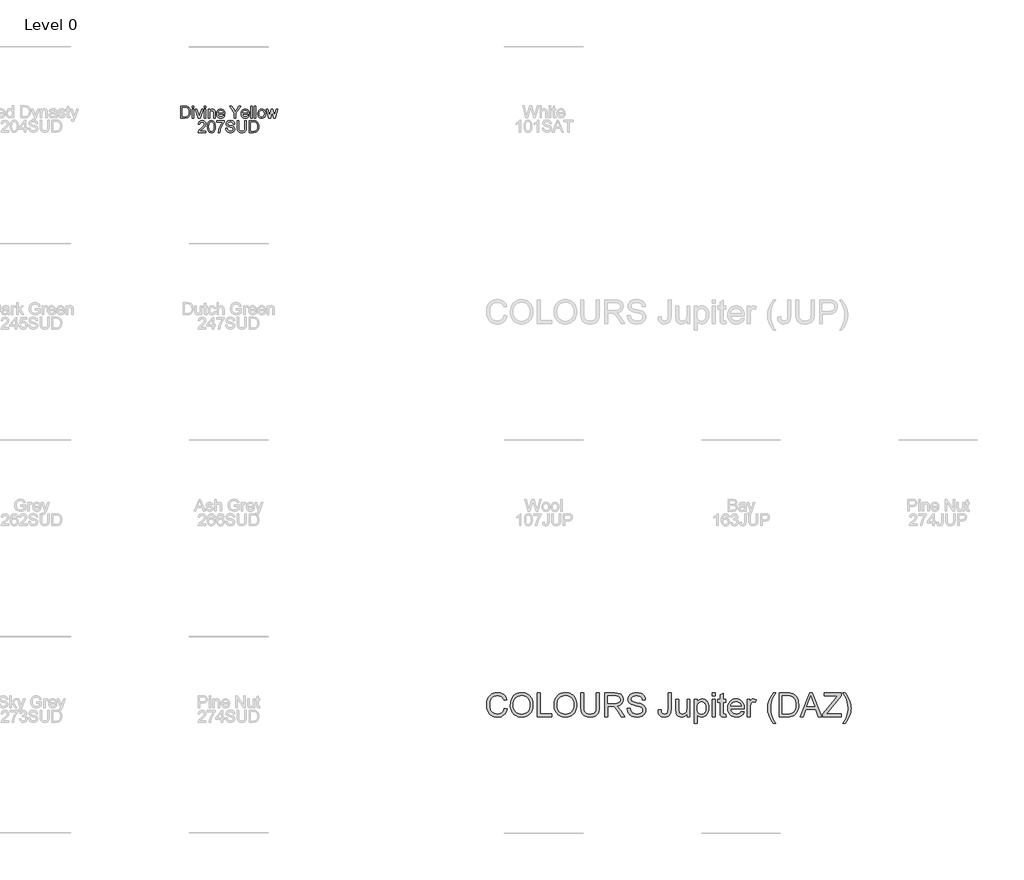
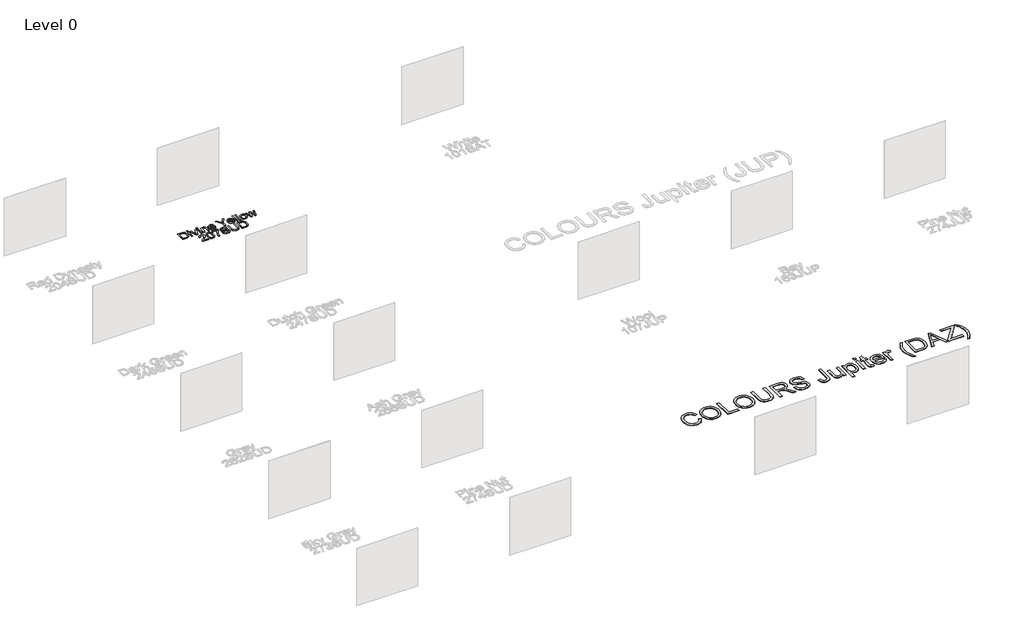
# One storey, part 24 of 37: 2 proxies.
"""IFC4 building model written with IfcOpenShell, lengths in millimetres."""

from ifc_helpers import new_model, si_unit, origin, origin_with_axes, place, context, project, spatial, polyline, outline, extrude, element, save

model = new_model("IFC4")

# Units and contexts
model_context = context("Model", 3, world=origin())
ifc_project = project(units=[si_unit("LENGTHUNIT", "METRE", prefix="MILLI")], contexts=[model_context])

# Site, building, storey
site = spatial("IfcSite", under=ifc_project)
building = spatial("IfcBuilding", under=site)
storey = spatial("IfcBuildingStorey", under=building, Name="Level 0", Elevation=0.0)

# Proxies
placement = place(None, origin())
element("IfcBuildingElementProxy", 1, Name="300mm Arial", ObjectType="300mm Arial", at=placement, inside=storey, context=model_context, shape_type="SweptSolid", body=[
    extrude(outline(polyline([(9332.0939981, -16982.860494), (9332.0939981, -16681.4915635), (9436.0574499, -16681.4915635), (9489.8417976, -16685.8325711), (9513.8644919, -16694.2018865), (9534.1347898, -16707.390456), (9554.9753048, -16730.3462925), (9569.8193433, -16758.8939353), (9578.7036935, -16792.4815615), (9581.6651436, -16830.557348), (9579.6601867, -16862.9033724), (9573.6453161, -16891.3682418), (9564.4850544, -16915.6024682), (9553.0439244, -16935.2565638), (9539.8737489, -16950.771987), (9525.5263511, -16962.590196), (9509.0544348, -16971.3549846), (9489.5107038, -16977.710146), (9441.060645, -16982.860494), (9332.0939981, -16982.860494)]), holes=[polyline([(9369.7651144, -16945.1893777), (9436.4253319, -16945.1893777), (9463.9980874, -16943.8282143), (9484.9121788, -16939.7447241), (9500.6943164, -16933.1780305), (9512.8712105, -16924.3672567), (9525.9586125, -16908.0608873), (9535.7902588, -16886.9536578), (9541.9430852, -16860.9535978), (9543.9940273, -16829.9687368), (9539.9749165, -16788.9131061), (9527.9175841, -16758.5996297), (9510.1028985, -16737.7775088), (9488.811728, -16725.1959446), (9467.1434785, -16720.670996), (9435.3952623, -16719.1626798), (9369.7651144, -16719.1626798), (9369.7651144, -16945.1893777)])]), origin_with_axes(), (0.0, 0.0, 1.0), 10.0),
    extrude(outline(polyline([(9628.754039, -16719.1626798), (9628.754039, -16681.4915635), (9666.4251553, -16681.4915635), (9666.4251553, -16719.1626798), (9628.754039, -16719.1626798)])), origin_with_axes(), (0.0, 0.0, 1.0), 10.0),
    extrude(outline(polyline([(9628.754039, -16982.860494), (9628.754039, -16761.5426857), (9666.4251553, -16761.5426857), (9666.4251553, -16982.860494), (9628.754039, -16982.860494)])), origin_with_axes(), (0.0, 0.0, 1.0), 10.0),
    extrude(outline(polyline([(9777.2312122, -16982.860494), (9699.387382, -16761.5426857), (9739.2657903, -16761.5426857), (9786.4282621, -16894.1273567), (9800.6285071, -16938.7146546), (9814.5344465, -16896.6289543), (9861.9912239, -16761.5426857), (9901.8696322, -16761.5426857), (9824.9822952, -16982.860494), (9777.2312122, -16982.860494)])), origin_with_axes(), (0.0, 0.0, 1.0), 10.0),
    extrude(outline(polyline([(9934.8318589, -16719.1626798), (9934.8318589, -16681.4915635), (9972.5029753, -16681.4915635), (9972.5029753, -16719.1626798), (9934.8318589, -16719.1626798)])), origin_with_axes(), (0.0, 0.0, 1.0), 10.0),
    extrude(outline(polyline([(9934.8318589, -16982.860494), (9934.8318589, -16761.5426857), (9972.5029753, -16761.5426857), (9972.5029753, -16982.860494), (9934.8318589, -16982.860494)])), origin_with_axes(), (0.0, 0.0, 1.0), 10.0),
    extrude(outline(polyline([(10029.0096497, -16982.860494), (10029.0096497, -16761.5426857), (10066.680766, -16761.5426857), (10066.680766, -16792.4447733), (10079.768168, -16776.8649708), (10095.4859262, -16765.7365404), (10113.8340408, -16759.0594822), (10134.8125115, -16756.8337961), (10153.3813552, -16758.6272209), (10170.3867005, -16764.0074951), (10184.5685514, -16772.303234), (10194.6669121, -16782.8430532), (10205.9608894, -16810.5445674), (10207.9474522, -16846.964885), (10207.9474522, -16982.860494), (10170.2763359, -16982.860494), (10170.2763359, -16852.0416565), (10165.9353283, -16818.7115477), (10159.9296547, -16808.7879309), (10150.5946491, -16801.0900002), (10138.6292872, -16796.1511844), (10124.7325449, -16794.5049125), (10102.6688222, -16798.2021265), (10083.8608552, -16809.2937687), (10076.3445662, -16818.3482643), (10070.9757883, -16830.7228949), (10066.680766, -16865.4325611), (10066.680766, -16982.860494), (10029.0096497, -16982.860494)])), origin_with_axes(), (0.0, 0.0, 1.0), 10.0),
    extrude(outline(polyline([(10414.6971335, -16916.9360404), (10451.6324858, -16921.64493), (10438.3243546, -16949.4752029), (10417.0883664, -16970.2789297), (10388.4027679, -16983.2467701), (10352.7458055, -16987.5693835), (10329.3715032, -16985.7046817), (10308.5447837, -16980.1105761), (10290.2656471, -16970.7870668), (10274.5340933, -16957.7341537), (10261.8835512, -16941.3151204), (10252.8474497, -16921.8932503), (10247.4257888, -16899.4685435), (10245.6185685, -16874.0409998), (10247.4441829, -16847.7512327), (10252.9210261, -16824.5792656), (10262.0490981, -16804.5250983), (10274.8283989, -16787.5887309), (10290.518566, -16774.133447), (10308.3792369, -16764.5225298), (10328.4104115, -16758.7559796), (10350.6120899, -16756.8337961), (10372.0986977, -16758.751381), (10391.5297648, -16764.5041357), (10408.9052913, -16774.0920602), (10424.2252771, -16787.5151545), (10436.7309657, -16804.4147337), (10445.6636004, -16824.4321128), (10451.0231812, -16847.5672917), (10452.8097082, -16873.8202706), (10452.588979, -16883.9738137), (10283.2896848, -16883.9738137), (10289.8103931, -16912.1719686), (10304.9579343, -16932.902119), (10326.8193219, -16945.6492302), (10353.4815695, -16949.8982672), (10373.5311382, -16947.9300985), (10390.4169218, -16942.0255925), (10404.1389202, -16931.8168672), (10414.6971335, -16916.9360404)]), holes=[polyline([(10283.2896848, -16846.3026974), (10415.1385919, -16846.3026974), (10410.0434262, -16826.4002814), (10400.05543, -16812.1632482), (10378.0928749, -16798.9194964), (10350.4649371, -16794.5049125), (10325.0718824, -16798.0273826), (10304.0750175, -16808.5947929), (10289.4792993, -16825.0667092), (10283.2896848, -16846.3026974)])]), origin_with_axes(), (0.0, 0.0, 1.0), 10.0),
    extrude(outline(polyline([(10697.6719641, -16982.860494), (10697.6719641, -16855.2054417), (10579.9497257, -16681.4915635), (10624.3898707, -16681.4915635), (10687.2241155, -16774.2714027), (10719.3770019, -16821.5810273), (10751.6034646, -16770.8868884), (10808.6251739, -16681.4915635), (10853.0653189, -16681.4915635), (10735.3430805, -16855.2054417), (10735.3430805, -16982.860494), (10697.6719641, -16982.860494)])), origin_with_axes(), (0.0, 0.0, 1.0), 10.0),
    extrude(outline(polyline([(11036.2705525, -16916.9360404), (11073.2059048, -16921.64493), (11059.8977736, -16949.4752029), (11038.6617855, -16970.2789297), (11009.9761869, -16983.2467701), (10974.3192245, -16987.5693835), (10950.9449223, -16985.7046817), (10930.1182028, -16980.1105761), (10911.8390662, -16970.7870668), (10896.1075123, -16957.7341537), (10883.4569702, -16941.3151204), (10874.4208687, -16921.8932503), (10868.9992078, -16899.4685435), (10867.1919875, -16874.0409998), (10869.0176019, -16847.7512327), (10874.4944451, -16824.5792656), (10883.6225171, -16804.5250983), (10896.4018179, -16787.5887309), (10912.091985, -16774.133447), (10929.9526559, -16764.5225298), (10949.9838305, -16758.7559796), (10972.1855089, -16756.8337961), (10993.6721167, -16758.751381), (11013.1031839, -16764.5041357), (11030.4787103, -16774.0920602), (11045.7986962, -16787.5151545), (11058.3043848, -16804.4147337), (11067.2370195, -16824.4321128), (11072.5966003, -16847.5672917), (11074.3831272, -16873.8202706), (11074.162398, -16883.9738137), (10904.8631038, -16883.9738137), (10911.3838122, -16912.1719686), (10926.5313533, -16932.902119), (10948.3927409, -16945.6492302), (10975.0549885, -16949.8982672), (10995.1045572, -16947.9300985), (11011.9903408, -16942.0255925), (11025.7123392, -16931.8168672), (11036.2705525, -16916.9360404)]), holes=[polyline([(10904.8631038, -16846.3026974), (11036.7120109, -16846.3026974), (11031.6168453, -16826.4002814), (11021.6288491, -16812.1632482), (10999.666294, -16798.9194964), (10972.0383562, -16794.5049125), (10946.6453014, -16798.0273826), (10925.6484366, -16808.5947929), (10911.0527184, -16825.0667092), (10904.8631038, -16846.3026974)])]), origin_with_axes(), (0.0, 0.0, 1.0), 10.0),
    extrude(outline(polyline([(11112.0542435, -16982.860494), (11112.0542435, -16681.4915635), (11149.7253598, -16681.4915635), (11149.7253598, -16982.860494), (11112.0542435, -16982.860494)])), origin_with_axes(), (0.0, 0.0, 1.0), 10.0),
    extrude(outline(polyline([(11206.2320343, -16982.860494), (11206.2320343, -16681.4915635), (11243.9031506, -16681.4915635), (11243.9031506, -16982.860494), (11206.2320343, -16982.860494)])), origin_with_axes(), (0.0, 0.0, 1.0), 10.0),
    extrude(outline(polyline([(11290.992046, -16872.2015898), (11293.0291925, -16843.5389839), (11299.1406322, -16818.8403064), (11309.3263649, -16798.1055575), (11323.5863907, -16781.334737), (11337.9429856, -16770.6155754), (11353.7895025, -16762.9590314), (11371.1259416, -16758.3651049), (11389.9523027, -16756.8337961), (11410.7353361, -16758.698498), (11429.5272083, -16764.2926036), (11446.3279192, -16773.6161129), (11461.1374687, -16786.669026), (11473.2246915, -16803.0098843), (11481.8584221, -16822.1972296), (11487.0386605, -16844.2310619), (11488.7654066, -16869.1113811), (11485.711986, -16907.1687735), (11476.5517243, -16936.1394806), (11461.551336, -16957.8353213), (11440.9775354, -16974.0681143), (11416.5409739, -16984.1940662), (11389.9523027, -16987.5693835), (11368.8657666, -16985.7115794), (11349.8991504, -16980.1381672), (11333.0524543, -16970.8491468), (11318.3256782, -16957.8445183), (11306.3672141, -16941.3450108), (11297.825454, -16921.5713536), (11292.700398, -16898.5235466), (11290.992046, -16872.2015898)]), holes=[polyline([(11328.6631623, -16872.1280134), (11333.0225639, -16906.2214773), (11346.1007688, -16930.5108861), (11365.7824556, -16945.0514219), (11389.9523027, -16949.8982672), (11414.0117852, -16945.0238308), (11433.6566837, -16930.4005215), (11446.7348886, -16905.789216), (11451.0942903, -16870.950791), (11446.7072975, -16837.8506085), (11433.5463191, -16813.8922936), (11413.8738294, -16799.3517577), (11389.9523027, -16794.5049125), (11365.7824556, -16799.3333636), (11346.1007688, -16813.8187172), (11333.0225639, -16838.0529436), (11328.6631623, -16872.1280134)])]), origin_with_axes(), (0.0, 0.0, 1.0), 10.0),
    extrude(outline(polyline([(11567.8600355, -16982.860494), (11500.5376304, -16761.5426857), (11539.6802747, -16761.5426857), (11577.8664258, -16890.669266), (11589.2707677, -16936.8016682), (11598.6149703, -16892.3615232), (11629.0020231, -16761.5426857), (11673.8836265, -16761.5426857), (11704.1235266, -16891.9936412), (11712.4376596, -16932.2399314), (11724.3570363, -16889.7863492), (11762.6167638, -16761.5426857), (11801.9065609, -16761.5426857), (11734.069121, -16982.860494), (11688.52533, -16982.860494), (11659.6098051, -16853.0717261), (11651.2220956, -16812.6047066), (11613.9188613, -16982.860494), (11567.8600355, -16982.860494)])), origin_with_axes(), (0.0, 0.0, 1.0), 10.0),
    extrude(outline(polyline([(9974.85742, -17311.1138312), (9974.85742, -17348.7849475), (9777.0840594, -17348.7849475), (9781.1307614, -17322.8124787), (9790.4197817, -17302.5145896), (9804.0130215, -17282.8237058), (9823.6763141, -17262.213117), (9851.1754932, -17239.156113), (9891.8264537, -17203.0484951), (9916.21703, -17176.3954446), (9928.4123181, -17154.7639833), (9932.4774142, -17133.7211331), (9928.6422444, -17114.8579838), (9917.136735, -17099.1770138), (9899.4508081, -17088.6096035), (9877.0743857, -17085.0871334), (9853.5759233, -17088.52683), (9835.3197793, -17098.84592), (9823.5383584, -17115.2350629), (9819.4640653, -17136.8849183), (9781.792949, -17132.1760288), (9790.9256195, -17095.7373171), (9799.4719781, -17081.2013798), (9810.6716856, -17069.1210548), (9824.2672246, -17059.6251008), (9840.0010776, -17052.8422765), (9877.8837261, -17047.4160171), (9898.0735498, -17048.9243332), (9916.042286, -17053.4492818), (9931.7899347, -17060.9908627), (9945.3164958, -17071.549076), (9956.180511, -17084.3421723), (9963.9405218, -17098.5884026), (9968.5965283, -17114.2877667), (9970.1485305, -17131.4402648), (9968.4746674, -17149.4572855), (9963.4530782, -17167.1616065), (9954.5411368, -17185.1694302), (9941.1962175, -17204.0969588), (9919.9234411, -17226.6941104), (9887.2279288, -17255.7108027), (9843.8914297, -17291.9471793), (9826.8952816, -17311.1138312), (9974.85742, -17311.1138312)])), origin_with_axes(), (0.0, 0.0, 1.0), 10.0),
    extrude(outline(polyline([(10012.5285363, -17200.5285035), (10015.2968483, -17152.2899768), (10023.6017844, -17113.8187172), (10037.360571, -17084.5261133), (10056.4904348, -17063.8235541), (10081.1293314, -17051.5179013), (10111.4152166, -17047.4160171), (10134.6285705, -17049.8440382), (10155.4139033, -17057.1281017), (10172.7963275, -17068.983099), (10185.8009561, -17085.1239216), (10195.6234053, -17105.4126136), (10203.4592918, -17129.7112194), (10208.5912457, -17160.5673217), (10210.3018969, -17200.5285035), (10207.5611761, -17248.4911186), (10199.3390135, -17286.8704077), (10185.6630003, -17316.1906027), (10166.5607277, -17336.9759355), (10141.8666488, -17349.3643617), (10111.4152166, -17353.4938371), (10090.6666721, -17351.7004123), (10072.2725723, -17346.3201381), (10056.2329174, -17337.3530145), (10042.5477071, -17324.7990414), (10029.4143199, -17302.1053209), (10020.033329, -17273.828991), (10014.4047345, -17239.9700519), (10012.5285363, -17200.5285035)]), holes=[polyline([(10050.1996526, -17200.4549271), (10054.6142366, -17259.7115194), (10060.1324665, -17279.9795181), (10067.8579884, -17294.0073184), (10087.5764633, -17310.3688702), (10111.4152166, -17315.8227207), (10135.2539699, -17310.3504761), (10154.9724449, -17293.933742), (10162.6979668, -17279.8829491), (10168.2161967, -17259.6195489), (10172.6307806, -17200.4549271), (10168.3633495, -17142.5319069), (10163.0290606, -17122.3305869), (10155.5610561, -17107.9693935), (10135.8793693, -17090.8076984), (10110.9737582, -17085.0871334), (10087.3925223, -17090.1271167), (10068.4465996, -17105.2470667), (10060.4635603, -17120.8820515), (10054.7613894, -17141.9616898), (10050.1996526, -17200.4549271)])]), origin_with_axes(), (0.0, 0.0, 1.0), 10.0),
    extrude(outline(polyline([(10243.2641237, -17089.7960229), (10243.2641237, -17052.1249066), (10441.0374843, -17052.1249066), (10441.0374843, -17082.5855358), (10412.8485264, -17118.2608923), (10384.93548, -17163.6299393), (10360.3149775, -17214.5540045), (10342.0036512, -17266.8944154), (10333.0273305, -17306.0554538), (10328.0241354, -17348.7849475), (10290.3530191, -17348.7849475), (10294.4273122, -17309.9550029), (10305.3258163, -17263.8042066), (10322.7542258, -17214.8850983), (10346.4182352, -17167.7502177), (10374.046173, -17125.1402856), (10403.366368, -17089.7960229), (10243.2641237, -17089.7960229)])), origin_with_axes(), (0.0, 0.0, 1.0), 10.0),
    extrude(outline(polyline([(10473.9997111, -17245.1893777), (10511.6708274, -17245.1893777), (10515.9934408, -17266.0942721), (10523.8109332, -17282.8972822), (10536.0062214, -17296.2330045), (10553.462222, -17306.7360355), (10574.7993778, -17313.5510494), (10598.638131, -17315.8227207), (10619.6257989, -17314.1028724), (10638.0015045, -17308.9433274), (10652.8915283, -17300.7763471), (10663.4221504, -17290.0341929), (10669.6853414, -17277.700949), (10671.7730717, -17264.7606998), (10670.2095732, -17252.1515444), (10665.5190778, -17241.2530403), (10655.9909341, -17231.9548229), (10639.9144909, -17224.1465276), (10585.0632854, -17209.7623415), (10549.0568351, -17200.2433949), (10526.0182252, -17191.1843008), (10507.2654405, -17178.510766), (10493.9757034, -17163.1516928), (10486.0570435, -17145.4381747), (10483.4174902, -17125.7013056), (10486.6824429, -17103.637583), (10496.477301, -17083.0637824), (10512.5445471, -17065.6261758), (10534.6266639, -17052.9710352), (10561.1325616, -17045.2731044), (10590.4711508, -17042.7071275), (10622.2561551, -17045.3926661), (10650.068034, -17053.4492818), (10672.9135059, -17066.7114277), (10689.7992895, -17085.013557), (10700.4862614, -17107.2152354), (10704.7352985, -17132.1760288), (10667.0641821, -17132.1760288), (10660.1480006, -17109.6984389), (10645.7270264, -17093.4748429), (10623.1942542, -17083.6523936), (10591.9426787, -17080.3782438), (10559.9553393, -17083.6156054), (10538.0111782, -17093.3276901), (10525.3192494, -17107.6199056), (10521.0886065, -17124.5976597), (10524.0868447, -17139.0738162), (10533.0815595, -17150.7172813), (10554.3451388, -17161.1283418), (10594.5914291, -17171.7601314), (10636.1253064, -17181.8584922), (10661.2516466, -17190.669266), (10682.7267581, -17204.3360821), (10697.7087523, -17221.2034716), (10706.5103291, -17241.0874934), (10709.444188, -17263.8042066), (10706.0688707, -17287.0267576), (10695.9429188, -17308.869751), (10679.4801995, -17327.668521), (10657.0945801, -17341.7584014), (10630.1748151, -17350.5599781), (10600.109659, -17353.4938371), (10563.2018979, -17350.3300519), (10532.8240421, -17340.8386964), (10508.6266039, -17324.9829824), (10490.2600953, -17302.7261217), (10478.4694773, -17275.6132187), (10473.9997111, -17245.1893777)])), origin_with_axes(), (0.0, 0.0, 1.0), 10.0),
    extrude(outline(polyline([(10963.7242231, -17047.4160171), (11001.3953394, -17047.4160171), (11001.3953394, -17221.277048), (10998.8385595, -17261.9923878), (10991.1682199, -17293.3451308), (10976.8392162, -17317.533372), (10954.306444, -17336.7552063), (10923.514721, -17349.3091794), (10884.4088649, -17353.4938371), (10846.1583345, -17349.8518053), (10815.5781436, -17338.92571), (10792.6590953, -17321.0926303), (10777.3919925, -17296.7296452), (10768.811145, -17264.052527), (10765.9508625, -17221.277048), (10765.9508625, -17047.4160171), (10803.6219788, -17047.4160171), (10803.6219788, -17219.9526728), (10805.4797828, -17253.8070134), (10811.0531951, -17277.3790523), (10821.1515558, -17293.7038158), (10836.5842055, -17305.8163305), (10856.7073507, -17313.3211232), (10880.8771977, -17315.8227207), (10919.1921075, -17310.8747079), (10933.5349068, -17304.6896919), (10944.6679357, -17296.0306694), (10953.0050614, -17283.8537754), (10958.9601512, -17267.1151446), (10963.7242231, -17219.9526728), (10963.7242231, -17047.4160171)])), origin_with_axes(), (0.0, 0.0, 1.0), 10.0),
    extrude(outline(polyline([(11067.3197929, -17348.7849475), (11067.3197929, -17047.4160171), (11171.2832447, -17047.4160171), (11225.0675924, -17051.7570246), (11249.0902867, -17060.12634), (11269.3605847, -17073.3149095), (11290.2010997, -17096.270746), (11305.0451382, -17124.8183889), (11313.9294884, -17158.406015), (11316.8909384, -17196.4818015), (11314.8859816, -17228.8278259), (11308.8711109, -17257.2926953), (11299.7108493, -17281.5269217), (11288.2697192, -17301.1810173), (11275.0995438, -17316.6964405), (11260.752146, -17328.5146496), (11244.2802296, -17337.2794381), (11224.7364986, -17343.6345996), (11176.2864399, -17348.7849475), (11067.3197929, -17348.7849475)]), holes=[polyline([(11104.9909092, -17311.1138312), (11171.6511267, -17311.1138312), (11199.2238823, -17309.7526678), (11220.1379737, -17305.6691777), (11235.9201113, -17299.1024841), (11248.0970053, -17290.2917103), (11261.1844073, -17273.9853408), (11271.0160536, -17252.8781114), (11277.16888, -17226.8780514), (11279.2198221, -17195.8931903), (11275.2007113, -17154.8375597), (11263.1433789, -17124.5240833), (11245.3286933, -17103.7019623), (11224.0375228, -17091.1203981), (11202.3692733, -17086.5954496), (11170.6210571, -17085.0871334), (11104.9909092, -17085.0871334), (11104.9909092, -17311.1138312)])]), origin_with_axes(), (0.0, 0.0, 1.0), 10.0),
])
element("IfcBuildingElementProxy", 2, Name="600mm Arial", ObjectType="600mm Arial", at=placement, inside=storey, context=model_context, shape_type="SweptSolid", body=[
    extrude(outline(polyline([(17546.3368732, -31966.6175733), (17621.6791058, -31986.0417427), (17606.770688, -32032.8961133), (17586.9142573, -32073.8367808), (17562.1098137, -32108.8637453), (17532.3573574, -32137.9770067), (17498.3282728, -32160.8638653), (17460.6939447, -32177.2116215), (17419.4543731, -32187.0202752), (17374.6095579, -32190.2898264), (17328.6656952, -32187.81582), (17287.2191899, -32180.3938007), (17250.270042, -32168.0237686), (17217.8182515, -32150.7057237), (17189.4177615, -32128.6971834), (17164.622515, -32102.255665), (17143.4325121, -32071.3811685), (17125.8477527, -32036.073694), (17112.0383823, -31997.8599518), (17102.1745463, -31958.266652), (17096.2562447, -31917.2937948), (17094.2834775, -31874.9413801), (17096.5137621, -31829.4987567), (17103.2046159, -31787.0543715), (17114.3560389, -31747.6082246), (17129.9680311, -31711.1603159), (17149.6911045, -31678.3130522), (17173.1757714, -31649.6688404), (17200.4220317, -31625.2276803), (17231.4298853, -31604.9895721), (17265.1462702, -31589.1200625), (17300.518124, -31577.7846985), (17337.5454468, -31570.9834801), (17376.2282386, -31568.7164074), (17419.3210158, -31571.6502663), (17458.8361406, -31580.451843), (17494.7736131, -31595.1211376), (17527.1334331, -31615.6581499), (17555.3821718, -31641.5202542), (17578.9864003, -31672.1648244), (17597.9461186, -31707.5918605), (17612.2613267, -31747.8013626), (17536.9190941, -31765.754004), (17525.0548998, -31736.1257078), (17510.7994725, -31710.810828), (17494.1528122, -31689.8093646), (17475.1149189, -31673.1213176), (17453.5754281, -31660.4063961), (17429.4239751, -31651.3243094), (17402.66056, -31645.8750573), (17373.2851827, -31644.05864), (17339.4860244, -31646.0727939), (17308.5747397, -31652.1152557), (17280.5513287, -31662.1860253), (17255.4157914, -31676.2851027), (17233.485426, -31693.7778916), (17215.0775306, -31714.0297954), (17200.1921054, -31737.0408142), (17188.8291503, -31762.810948), (17174.4265702, -31817.9564591), (17169.6257101, -31874.7942273), (17175.309487, -31944.3975008), (17182.414208, -31975.6674704), (17192.3608174, -32004.5829952), (17205.3102637, -32030.5692597), (17221.4234951, -32053.0514481), (17240.7005116, -32072.0295605), (17263.1413133, -32087.503597), (17287.6560498, -32099.5103456), (17313.1548706, -32108.0865946), (17339.6377757, -32113.232344), (17367.1047652, -32114.9475938), (17399.8600583, -32112.6115431), (17429.9941922, -32105.6033911), (17457.5071669, -32093.9231378), (17482.3989824, -32077.5707831), (17504.0810275, -32056.6199035), (17521.964691, -32031.1440753), (17536.0499729, -32001.1432986), (17546.3368732, -31966.6175733)])), origin_with_axes(), (0.0, 0.0, 1.0), 10.0),
    extrude(outline(polyline([(17697.0213384, -31887.449368), (17702.0429277, -31816.7516456), (17717.1076954, -31754.1657211), (17742.2156415, -31699.6915947), (17758.5358065, -31675.4964557), (17777.3667662, -31653.3292662), (17820.4549449, -31616.3111405), (17869.3740532, -31589.8696221), (17924.1240911, -31574.004711), (17984.7050587, -31568.7164074), (18025.2548516, -31571.1996108), (18063.7628994, -31578.6492212), (18100.2292022, -31591.0652386), (18134.6537599, -31608.4476628), (18166.0708823, -31630.2722622), (18193.5148791, -31656.0148048), (18216.9857504, -31685.6752907), (18236.4834962, -31719.2537198), (18251.8057813, -31755.986737), (18262.7502706, -31795.1109872), (18269.3169642, -31836.6264703), (18271.5058621, -31880.5331865), (18269.2020011, -31925.0193167), (18262.2904181, -31967.0958199), (18250.7711131, -32006.7626961), (18234.6440862, -32044.0199451), (18214.2910148, -32077.8834828), (18190.0935766, -32107.3692247), (18162.0517715, -32132.4771709), (18130.1655995, -32153.2073213), (18095.6904581, -32169.4309173), (18059.8817444, -32181.0192001), (18022.7394584, -32187.9721698), (17984.2636003, -32190.2898264), (17943.0056345, -32187.728448), (17903.9917489, -32180.0443128), (17867.2219435, -32167.2374209), (17832.6962182, -32149.3077721), (17801.3158841, -32126.9497439), (17773.9822518, -32100.8577134), (17750.6953215, -32071.0316806), (17731.4550932, -32037.4716456), (17716.3903255, -32001.5249762), (17705.6297771, -31964.5390401), (17699.1734481, -31926.5138373), (17697.0213384, -31887.449368)]), holes=[polyline([(17772.363571, -31888.185132), (17776.129763, -31938.1343099), (17787.4283387, -31982.4732873), (17806.2592984, -32021.2020644), (17832.6226418, -32054.320641), (17864.6697622, -32080.8449328), (17900.5520523, -32099.7908556), (17940.2695122, -32111.1584092), (17983.8221419, -32114.9475938), (18028.1197326, -32111.121621), (18068.3062421, -32099.6437028), (18104.3816702, -32080.513839), (18136.3460171, -32053.7320298), (18162.5162225, -32019.9144774), (18181.2092264, -31979.6773842), (18192.4250287, -31933.0207501), (18196.1636295, -31879.9445753), (18194.5633428, -31845.4648353), (18189.7624828, -31813.2475695), (18181.7610494, -31783.2927781), (18170.5590426, -31755.6004609), (18156.2806227, -31730.5339015), (18139.0499497, -31708.4563832), (18118.8670238, -31689.3679062), (18095.7318448, -31673.2684704), (18070.3617827, -31660.4891696), (18043.4742074, -31651.3610976), (18015.0691188, -31645.8842544), (17985.146517, -31644.05864), (17943.1068021, -31647.5765115), (17904.1021135, -31658.1301263), (17868.1324514, -31675.7194842), (17835.1978158, -31700.3445852), (17807.7078337, -31733.1918489), (17788.0721322, -31775.4476945), (17776.2907113, -31827.1121222), (17772.363571, -31888.185132)])]), origin_with_axes(), (0.0, 0.0, 1.0), 10.0),
    extrude(outline(polyline([(18375.1014319, -32180.8720473), (18375.1014319, -31578.1341864), (18450.4436645, -31578.1341864), (18450.4436645, -32105.5298147), (18751.812595, -32105.5298147), (18751.812595, -32180.8720473), (18375.1014319, -32180.8720473)])), origin_with_axes(), (0.0, 0.0, 1.0), 10.0),
    extrude(outline(polyline([(18808.3192695, -31887.449368), (18813.3408587, -31816.7516456), (18828.4056264, -31754.1657211), (18853.5135726, -31699.6915947), (18869.8337376, -31675.4964557), (18888.6646972, -31653.3292662), (18931.7528759, -31616.3111405), (18980.6719842, -31589.8696221), (19035.4220221, -31574.004711), (19096.0029897, -31568.7164074), (19136.5527826, -31571.1996108), (19175.0608304, -31578.6492212), (19211.5271332, -31591.0652386), (19245.9516909, -31608.4476628), (19277.3688133, -31630.2722622), (19304.8128101, -31656.0148048), (19328.2836814, -31685.6752907), (19347.7814272, -31719.2537198), (19363.1037123, -31755.986737), (19374.0482016, -31795.1109872), (19380.6148953, -31836.6264703), (19382.8037931, -31880.5331865), (19380.4999321, -31925.0193167), (19373.5883491, -31967.0958199), (19362.0690442, -32006.7626961), (19345.9420172, -32044.0199451), (19325.5889458, -32077.8834828), (19301.3915076, -32107.3692247), (19273.3497025, -32132.4771709), (19241.4635306, -32153.2073213), (19206.9883891, -32169.4309173), (19171.1796754, -32181.0192001), (19134.0373895, -32187.9721698), (19095.5615313, -32190.2898264), (19054.3035655, -32187.728448), (19015.2896799, -32180.0443128), (18978.5198745, -32167.2374209), (18943.9941493, -32149.3077721), (18912.6138151, -32126.9497439), (18885.2801828, -32100.8577134), (18861.9932526, -32071.0316806), (18842.7530242, -32037.4716456), (18827.6882565, -32001.5249762), (18816.9277081, -31964.5390401), (18810.4713791, -31926.5138373), (18808.3192695, -31887.449368)]), holes=[polyline([(18883.6615021, -31888.185132), (18887.427694, -31938.1343099), (18898.7262698, -31982.4732873), (18917.5572294, -32021.2020644), (18943.9205729, -32054.320641), (18975.9676932, -32080.8449328), (19011.8499833, -32099.7908556), (19051.5674432, -32111.1584092), (19095.1200729, -32114.9475938), (19139.4176636, -32111.121621), (19179.6041731, -32099.6437028), (19215.6796012, -32080.513839), (19247.6439481, -32053.7320298), (19273.8141535, -32019.9144774), (19292.5071574, -31979.6773842), (19303.7229597, -31933.0207501), (19307.4615605, -31879.9445753), (19305.8612738, -31845.4648353), (19301.0604138, -31813.2475695), (19293.0589804, -31783.2927781), (19281.8569736, -31755.6004609), (19267.5785537, -31730.5339015), (19250.3478808, -31708.4563832), (19230.1649548, -31689.3679062), (19207.0297758, -31673.2684704), (19181.6597137, -31660.4891696), (19154.7721384, -31651.3610976), (19126.3670499, -31645.8842544), (19096.4444481, -31644.05864), (19054.4047331, -31647.5765115), (19015.4000445, -31658.1301263), (18979.4303825, -31675.7194842), (18946.4957468, -31700.3445852), (18919.0057648, -31733.1918489), (18899.3700633, -31775.4476945), (18887.5886424, -31827.1121222), (18883.6615021, -31888.185132)])]), origin_with_axes(), (0.0, 0.0, 1.0), 10.0),
    extrude(outline(polyline([(19881.9460842, -31578.1341864), (19957.2883168, -31578.1341864), (19957.2883168, -31925.8562483), (19952.1747571, -32007.2869279), (19945.7828074, -32040.9803201), (19936.8340779, -32069.992414), (19924.5560163, -32095.4222569), (19908.1760704, -32118.3688963), (19887.6942404, -32138.8323323), (19863.110526, -32156.8125648), (19834.3973363, -32171.4588668), (19801.52708, -32181.920511), (19764.4997572, -32188.1974976), (19723.3153679, -32190.2898264), (19683.1472525, -32188.4688105), (19646.814307, -32183.0057629), (19614.3165312, -32173.9006835), (19585.6539253, -32161.1535724), (19560.8218906, -32144.952969), (19539.8158287, -32125.487413), (19522.6357395, -32102.7569042), (19509.2816231, -32076.7614427), (19499.2706343, -32046.6089147), (19492.119928, -32011.4072063), (19487.8295042, -31971.1563175), (19486.399363, -31925.8562483), (19486.399363, -31578.1341864), (19561.7415956, -31578.1341864), (19561.7415956, -31923.2074979), (19565.4572037, -31990.9161791), (19576.6040282, -32038.0602568), (19585.3688167, -32055.4380825), (19596.8007497, -32070.7097839), (19610.8998272, -32083.8753608), (19627.6660491, -32094.9348133), (19667.9123394, -32109.9443987), (19716.2520336, -32114.9475938), (19757.7767138, -32112.4735874), (19792.8818531, -32105.0515681), (19821.5674517, -32092.681536), (19843.8335095, -32075.3634911), (19860.5077609, -32051.009703), (19872.4179405, -32017.5324415), (19879.5640483, -31974.9317064), (19881.9460842, -31923.2074979), (19881.9460842, -31578.1341864)])), origin_with_axes(), (0.0, 0.0, 1.0), 10.0),
    extrude(outline(polyline([(20089.1372239, -32180.8720473), (20089.1372239, -31578.1341864), (20348.8619125, -31578.1341864), (20418.667521, -31582.1992825), (20469.4536305, -31594.3945706), (20489.0525438, -31604.0882612), (20506.5729238, -31616.9089487), (20522.0147705, -31632.8566332), (20535.378084, -31651.9313147), (20546.161625, -31673.107522), (20553.8641543, -31695.3597842), (20558.4856718, -31718.6881012), (20560.0261777, -31743.0924731), (20557.4739963, -31774.049743), (20549.8174523, -31802.4686271), (20537.0565456, -31828.3491255), (20519.1912762, -31851.691238), (20495.9917179, -31871.7500038), (20467.2279444, -31887.7804618), (20432.8999557, -31899.7826119), (20393.0077519, -31907.7564541), (20417.8397866, -31923.9800501), (20435.8292161, -31939.9829169), (20466.6945155, -31976.5871754), (20496.8976273, -32017.5324415), (20597.4029884, -32180.8720473), (20509.8470735, -32180.8720473), (20431.4146322, -32055.9393218), (20374.7608049, -31973.2394493), (20353.6995607, -31949.1247845), (20334.955973, -31934.1703814), (20299.1242667, -31919.8229836), (20255.4198857, -31917.1742332), (20164.4794565, -31917.1742332), (20164.4794565, -32180.8720473), (20089.1372239, -32180.8720473)]), holes=[polyline([(20164.4794565, -31841.8320006), (20333.1165631, -31841.8320006), (20381.5482277, -31839.1648561), (20419.1273735, -31831.1634227), (20447.417499, -31817.2942715), (20467.9821025, -31797.0239736), (20480.5084844, -31772.5046386), (20484.6839451, -31745.8883762), (20482.6927838, -31726.6205567), (20476.7192999, -31709.1369649), (20466.7634934, -31693.4376008), (20452.8253643, -31679.5224643), (20434.5830159, -31668.1273195), (20411.7145513, -31659.9879304), (20384.2199707, -31655.1042969), (20352.099274, -31653.476419), (20164.4794565, -31653.476419), (20164.4794565, -31841.8320006)])]), origin_with_axes(), (0.0, 0.0, 1.0), 10.0),
    extrude(outline(polyline([(20663.6217475, -31973.6809076), (20738.9639801, -31973.6809076), (20747.609207, -32015.4906964), (20763.2441918, -32049.0967167), (20787.6347681, -32075.7681613), (20822.5467694, -32096.7742232), (20865.2210809, -32110.4042512), (20912.8985875, -32114.9475938), (20954.8739231, -32111.5078971), (20991.6253344, -32101.1888072), (21021.4053819, -32084.8548466), (21042.4666262, -32063.3705381), (21054.9930081, -32038.7040503), (21059.1684687, -32012.8235519), (21056.0414718, -31987.6052412), (21046.6604809, -31965.8082329), (21027.6041936, -31947.2117981), (20995.4513072, -31931.5952074), (20885.7488962, -31902.8268354), (20813.7359957, -31883.7889421), (20767.6587758, -31865.6707539), (20730.1532064, -31840.3236844), (20703.5737322, -31809.6055378), (20687.7364123, -31774.1785017), (20682.4573057, -31734.7047636), (20684.089782, -31712.2685604), (20688.9872111, -31690.5773183), (20697.1495929, -31669.6310372), (20708.5769273, -31649.4297171), (20723.1404558, -31630.796494), (20740.7114196, -31614.554504), (20761.2898187, -31600.7037468), (20784.8756531, -31589.2442227), (20837.8874486, -31573.8483612), (20896.5646269, -31568.7164074), (20960.1346356, -31574.0874845), (21015.7583933, -31590.2007159), (21040.0937873, -31602.202866), (21061.4493371, -31616.7250077), (21079.8250428, -31633.7671412), (21095.2209043, -31653.3292662), (21107.51736, -31674.8411659), (21116.5948482, -31697.7326231), (21122.453369, -31722.0036377), (21125.0929223, -31747.6542098), (21049.7506897, -31747.6542098), (21044.7107063, -31723.6131214), (21035.9183267, -31702.69903), (21023.3735506, -31684.9119355), (21007.0763782, -31670.251838), (20986.7233068, -31658.7923139), (20962.0108338, -31650.6069395), (20932.9389592, -31645.6957148), (20899.5076828, -31644.05864), (20865.0095487, -31645.6773207), (20835.5330039, -31650.5333631), (20811.0780482, -31658.626767), (20791.6446819, -31669.9575324), (20776.8374315, -31683.5783633), (20766.2608242, -31698.5419635), (20759.9148598, -31714.8483329), (20757.7995383, -31732.4974716), (20759.2986574, -31747.681801), (20763.7960148, -31761.4497846), (20771.2916105, -31773.8014226), (20781.7854444, -31784.7367149), (20798.303346, -31795.0925931), (20824.312603, -31805.5588358), (20904.8051836, -31826.8224152), (20987.8729381, -31847.0191367), (21038.1256186, -31864.6406843), (21081.0758416, -31891.9743165), (21097.6811151, -31908.0415627), (21111.0398301, -31925.7090955), (21121.3083363, -31944.8849445), (21128.6429835, -31965.4771392), (21134.5107014, -32010.9105656), (21132.8230427, -32034.4780059), (21127.7600667, -32057.3556674), (21119.3217735, -32079.5435503), (21107.5081629, -32101.0416544), (21092.5261687, -32121.0176467), (21074.5827243, -32138.6391943), (21053.67783, -32153.9062971), (21029.8114855, -32166.8189551), (21003.6780683, -32177.0874613), (20975.9719555, -32184.4221086), (20915.8416434, -32190.2898264), (20877.3014059, -32188.7079338), (20842.0261211, -32183.9622561), (20810.015789, -32176.0527932), (20781.2704096, -32164.9795451), (20755.615239, -32150.7241178), (20732.8755331, -32133.2681172), (20713.0512921, -32112.6115431), (20696.1425159, -32088.7543957), (20682.521685, -32062.4692272), (20672.56128, -32034.5285896), (20666.2613008, -32004.9324831), (20663.6217475, -31973.6809076)])), origin_with_axes(), (0.0, 0.0, 1.0), 10.0),
    extrude(outline(polyline([(21445.2974109, -32011.6463295), (21520.6396435, -32001.9342449), (21523.2975909, -32031.8890363), (21528.47553, -32056.711874), (21536.1734607, -32076.4027577), (21546.3913832, -32090.9616877), (21558.9729474, -32101.4555216), (21573.7618036, -32108.9511173), (21590.7579518, -32113.4484747), (21609.9613919, -32114.9475938), (21637.7916649, -32111.5446853), (21661.5384476, -32101.33596), (21679.858971, -32085.2595168), (21691.4104657, -32064.2534549), (21697.5357009, -32033.848008), (21699.577446, -31989.5734098), (21699.577446, -31578.1341864), (21774.9196786, -31578.1341864), (21774.9196786, -31988.2490347), (21770.3763359, -32055.3323165), (21764.6971576, -32082.4590151), (21756.746308, -32105.3090855), (21746.3260505, -32124.7930357), (21733.2386485, -32141.8213735), (21717.4841021, -32156.3940991), (21699.0624112, -32168.5112123), (21656.1489764, -32184.8451729), (21606.4297248, -32190.2898264), (21569.3012344, -32187.4801277), (21536.7896631, -32179.0510315), (21508.8950108, -32165.0025378), (21485.6172776, -32145.3346466), (21467.3703306, -32120.1209343), (21454.5680372, -32089.4349774), (21447.2103973, -32053.2767758), (21445.2974109, -32011.6463295)])), origin_with_axes(), (0.0, 0.0, 1.0), 10.0),
    extrude(outline(polyline([(22179.8841789, -32180.8720473), (22179.8841789, -32104.7940507), (22152.624123, -32142.1984526), (22120.8759068, -32168.9158825), (22084.6395303, -32184.9463404), (22043.9149934, -32190.2898264), (22007.2187644, -32186.5374301), (21973.0609212, -32175.280241), (21944.4029137, -32158.3576692), (21924.2061922, -32137.6091247), (21910.6129525, -32112.409208), (21901.7653905, -32082.1325198), (21897.3508066, -32012.0877879), (21897.3508066, -31738.2364307), (21972.6930392, -31738.2364307), (21972.6930392, -31976.6239636), (21973.8334734, -32024.3014702), (21977.2547759, -32053.4377242), (21988.2360535, -32079.0607052), (22007.0532175, -32098.5400568), (22032.4554693, -32110.8457095), (22063.19201, -32114.9475938), (22095.6943843, -32110.753739), (22126.0998312, -32098.1721748), (22151.1709891, -32078.3617294), (22167.6704966, -32052.481231), (22176.8307583, -32017.0358008), (22179.8841789, -31968.5305597), (22179.8841789, -31738.2364307), (22255.2264115, -31738.2364307), (22255.2264115, -32180.8720473), (22179.8841789, -32180.8720473)])), origin_with_axes(), (0.0, 0.0, 1.0), 10.0),
    extrude(outline(polyline([(22358.8219813, -32350.3920707), (22358.8219813, -31738.2364307), (22434.1642139, -31738.2364307), (22434.1642139, -31812.1071354), (22458.7387312, -31775.6684237), (22486.2563044, -31749.6407726), (22518.3356144, -31734.0241819), (22556.5953419, -31728.8186517), (22582.8713134, -31730.6396675), (22607.5469982, -31736.1027152), (22630.6223964, -31745.2077945), (22652.0975079, -31757.9549057), (22671.5032831, -31774.0129548), (22688.3706726, -31793.050848), (22702.6996763, -31815.0685854), (22714.4902942, -31840.066167), (22730.2724318, -31895.5795601), (22735.5331444, -31956.1697247), (22729.5918501, -32020.6042561), (22722.1652324, -32050.2693405), (22711.7679675, -32078.2329707), (22698.5426098, -32103.7639811), (22682.6317135, -32126.1312064), (22664.0352786, -32145.3346466), (22642.7533052, -32161.3743016), (22619.8296584, -32174.0248437), (22596.3082033, -32183.0609452), (22572.18894, -32188.4826061), (22547.4718684, -32190.2898264), (22512.8357786, -32185.4521782), (22481.9152969, -32170.9392335), (22455.4461873, -32149.0318606), (22434.1642139, -32122.0109281), (22434.1642139, -32350.3920707), (22358.8219813, -32350.3920707)]), holes=[polyline([(22434.1642139, -31963.0859062), (22436.2013605, -31999.3958591), (22442.3128001, -32030.6290405), (22452.4985329, -32056.7854504), (22466.7585587, -32077.8650887), (22483.9248523, -32094.0886847), (22502.8293883, -32105.6769675), (22523.4721668, -32112.6299372), (22545.8531877, -32114.9475938), (22568.5561053, -32112.5471638), (22589.5759628, -32105.3458737), (22608.9127602, -32093.3437236), (22626.5664974, -32076.5407135), (22641.2771787, -32054.69772), (22651.7848082, -32027.5756199), (22658.0893859, -31995.1744132), (22660.1909118, -31957.4940999), (22658.1399696, -31921.4968466), (22651.9871433, -31890.3188475), (22641.7324326, -31863.9601026), (22627.3758378, -31842.4206118), (22610.1681575, -31825.681981), (22591.3601905, -31813.7258161), (22570.9519368, -31806.5521172), (22548.9433964, -31804.1608843), (22527.0038339, -31806.7038686), (22506.3610555, -31814.3328214), (22487.0150611, -31827.0477429), (22468.9658507, -31844.8486329), (22453.7401346, -31867.4963683), (22442.8646231, -31894.7518256), (22436.3393162, -31926.6150049), (22434.1642139, -31963.0859062)])]), origin_with_axes(), (0.0, 0.0, 1.0), 10.0),
    extrude(outline(polyline([(22820.2931561, -31653.476419), (22820.2931561, -31578.1341864), (22895.6353887, -31578.1341864), (22895.6353887, -31653.476419), (22820.2931561, -31653.476419)])), origin_with_axes(), (0.0, 0.0, 1.0), 10.0),
    extrude(outline(polyline([(22820.2931561, -32180.8720473), (22820.2931561, -31738.2364307), (22895.6353887, -31738.2364307), (22895.6353887, -32180.8720473), (22820.2931561, -32180.8720473)])), origin_with_axes(), (0.0, 0.0, 1.0), 10.0),
    extrude(outline(polyline([(23168.7509819, -32118.0378026), (23178.168761, -32183.0793393), (23121.8092393, -32190.2898264), (23085.6464392, -32187.1628294), (23058.6806889, -32177.7818386), (23039.6244016, -32163.3240762), (23027.1899901, -32144.9667646), (23020.347385, -32113.4392776), (23018.0665167, -32059.4709889), (23018.0665167, -31813.5786633), (22961.5598422, -31813.5786633), (22961.5598422, -31738.2364307), (23018.0665167, -31738.2364307), (23018.0665167, -31630.6677353), (23093.4087493, -31586.3747431), (23093.4087493, -31738.2364307), (23168.7509819, -31738.2364307), (23168.7509819, -31813.5786633), (23093.4087493, -31813.5786633), (23093.4087493, -32057.2636969), (23097.3818748, -32096.1120356), (23110.2577447, -32109.8708223), (23121.1286576, -32113.6784009), (23135.9359079, -32114.9475938), (23168.7509819, -32118.0378026)])), origin_with_axes(), (0.0, 0.0, 1.0), 10.0),
    extrude(outline(polyline([(23553.9970072, -32049.0231403), (23627.8677119, -32058.4409193), (23616.5415449, -32088.0278288), (23601.2514495, -32114.1014652), (23581.9974256, -32136.6618286), (23558.7794732, -32155.7089189), (23531.8367156, -32170.8380659), (23501.408276, -32181.6445995), (23467.4941546, -32188.1285197), (23430.0943513, -32190.2898264), (23383.3457467, -32186.5604227), (23341.6923078, -32175.3722115), (23305.1340346, -32156.7251929), (23273.6709269, -32130.6193668), (23248.3698427, -32097.7813002), (23230.2976397, -32058.93756), (23219.4543179, -32014.0881463), (23215.8398773, -31963.233059), (23219.4911061, -31910.6535248), (23230.4447925, -31864.3095905), (23248.7009365, -31824.201256), (23274.2595381, -31790.3285212), (23305.6398723, -31763.4179533), (23341.361214, -31744.1961191), (23381.4235633, -31732.6630185), (23425.8269201, -31728.8186517), (23468.8001357, -31732.6538215), (23507.6622699, -31744.1593309), (23542.4133229, -31763.3351799), (23573.0532946, -31790.1813685), (23598.0646717, -31823.9805268), (23615.9299411, -31864.0152849), (23626.6491028, -31910.2856428), (23630.2221566, -31962.7916006), (23629.7806982, -31983.0986867), (23291.1821099, -31983.0986867), (23295.5461101, -32013.1638428), (23304.2235266, -32039.4949966), (23317.2143596, -32062.0921481), (23334.5186089, -32080.9552974), (23355.1797815, -32095.8269271), (23378.241384, -32106.4495197), (23403.7034166, -32112.8230753), (23431.5658792, -32114.9475938), (23471.6650167, -32111.0112564), (23505.4365839, -32099.2022444), (23532.8805807, -32078.7847937), (23553.9970072, -32049.0231403)]), holes=[polyline([(23291.1821099, -31907.7564541), (23554.879924, -31907.7564541), (23544.6895928, -31867.9516222), (23535.9248042, -31852.2982433), (23524.7136004, -31839.4775558), (23504.167391, -31824.026512), (23480.7884902, -31812.9900522), (23454.576898, -31806.3681762), (23425.5326145, -31804.1608843), (23399.0405123, -31805.9221193), (23374.7465051, -31811.2058245), (23352.6505928, -31820.0119997), (23332.7527753, -31832.3406451), (23316.0555313, -31847.6215435), (23303.561339, -31865.2844778), (23295.2701986, -31885.329448), (23291.1821099, -31907.7564541)])]), origin_with_axes(), (0.0, 0.0, 1.0), 10.0),
    extrude(outline(polyline([(23705.5643893, -32180.8720473), (23705.5643893, -31738.2364307), (23771.4888428, -31738.2364307), (23771.4888428, -31803.7194259), (23795.8426309, -31765.754004), (23818.2834326, -31743.3867787), (23840.7978107, -31732.4606834), (23865.372328, -31728.8186517), (23902.8962915, -31734.6311872), (23941.0088662, -31752.0687938), (23915.8457377, -31819.6119281), (23889.358234, -31808.0236452), (23862.8707304, -31804.1608843), (23840.3747464, -31807.8764924), (23820.2699953, -31819.0233169), (23804.0280053, -31836.755229), (23793.1203041, -31860.2261003), (23783.9600424, -31902.3118006), (23780.9066219, -31948.2234736), (23780.9066219, -32180.8720473), (23705.5643893, -32180.8720473)])), origin_with_axes(), (0.0, 0.0, 1.0), 10.0),
    extrude(outline(polyline([(24374.2267037, -32350.3920707), (24343.8120597, -32311.0378943), (24315.843831, -32268.4647504), (24290.3220176, -32222.672639), (24267.2466195, -32173.6615602), (24248.1259528, -32122.5811452), (24234.4683337, -32070.5810252), (24226.2737623, -32017.6612002), (24223.5422385, -31963.8216702), (24225.5839835, -31916.5028485), (24231.7092188, -31870.1957024), (24241.9179441, -31824.9002317), (24256.2101596, -31780.6164366), (24277.9335914, -31729.8303271), (24304.8441594, -31679.1545823), (24336.9418635, -31628.5892021), (24374.2267037, -31578.1341864), (24430.7333781, -31578.1341864), (24386.4035977, -31649.7608109), (24360.2471879, -31697.4751057), (24336.1877054, -31754.1289329), (24317.867182, -31813.1372049), (24303.6301488, -31888.5162258), (24298.8844711, -31964.2631286), (24300.9446102, -32012.561436), (24307.1250278, -32060.8505464), (24317.4257236, -32109.1304597), (24331.8466978, -32157.401176), (24350.3879504, -32205.6626953), (24373.0494813, -32253.9150175), (24399.8312905, -32302.1581426), (24430.7333781, -32350.3920707), (24374.2267037, -32350.3920707)])), origin_with_axes(), (0.0, 0.0, 1.0), 10.0),
    extrude(outline(polyline([(24515.4933898, -32180.8720473), (24515.4933898, -31578.1341864), (24723.4202935, -31578.1341864), (24785.5555625, -31580.3046902), (24830.9889889, -31586.8162015), (24879.0343775, -31603.5548323), (24919.5749733, -31629.9319714), (24941.9146075, -31651.4898563), (24961.2560034, -31675.8436443), (24977.599161, -31702.9933356), (24990.9440804, -31732.93893), (25001.3091556, -31765.4045161), (25008.7127808, -31800.1141823), (25014.6356809, -31876.2657553), (25010.6257671, -31940.9578042), (24998.5960259, -31997.8875429), (24980.2755025, -32046.3559958), (24957.3932424, -32085.664187), (24931.0528916, -32116.6950333), (24902.358096, -32140.3314515), (24869.4142633, -32157.8610285), (24830.3268013, -32170.5713515), (24785.0221336, -32178.2968734), (24733.4266838, -32180.8720473), (24515.4933898, -32180.8720473)]), holes=[polyline([(24590.8356224, -32105.5298147), (24724.1560575, -32105.5298147), (24779.3015686, -32102.807488), (24821.1297514, -32094.6405077), (24852.6940266, -32081.5071204), (24877.0478147, -32063.8855729), (24903.2226186, -32031.272834), (24922.8859113, -31989.058375), (24935.191564, -31937.058255), (24939.2934483, -31875.0885329), (24937.2838929, -31831.3473637), (24931.2552267, -31792.9772716), (24921.2074497, -31759.9782566), (24907.1405619, -31732.3503188), (24890.1949975, -31709.4680587), (24871.5111907, -31690.706077), (24851.0891414, -31676.0643735), (24828.9288497, -31665.5429485), (24785.5923507, -31656.4930514), (24722.0959183, -31653.476419), (24590.8356224, -31653.476419), (24590.8356224, -32105.5298147)])]), origin_with_axes(), (0.0, 0.0, 1.0), 10.0),
    extrude(outline(polyline([(25048.039366, -32180.8720473), (25288.6341909, -31578.1341864), (25352.7928109, -31578.1341864), (25593.3876357, -32180.8720473), (25513.7779719, -32180.8720473), (25444.7633096, -31992.5164658), (25196.5165393, -31992.5164658), (25127.6490298, -32180.8720473), (25048.039366, -32180.8720473)]), holes=[polyline([(25224.1812653, -31917.1742332), (25417.2457364, -31917.1742332), (25362.9463539, -31768.9913655), (25320.7135009, -31653.476419), (25283.1895374, -31756.0419193), (25224.1812653, -31917.1742332)])]), origin_with_axes(), (0.0, 0.0, 1.0), 10.0),
    extrude(outline(polyline([(25626.7913209, -32180.8720473), (25626.7913209, -32102.7339116), (25935.0764328, -31725.2869845), (25993.6432465, -31653.476419), (25664.4624372, -31653.476419), (25664.4624372, -31578.1341864), (26088.2624956, -31578.1341864), (26088.2624956, -31653.476419), (25750.8411296, -32066.5343232), (25719.0561253, -32105.5298147), (26097.6802747, -32105.5298147), (26097.6802747, -32180.8720473), (25626.7913209, -32180.8720473)])), origin_with_axes(), (0.0, 0.0, 1.0), 10.0),
    extrude(outline(polyline([(26191.8580655, -32350.3920707), (26135.351391, -32350.3920707), (26166.2534786, -32302.1581426), (26193.0352878, -32253.9150175), (26215.6968187, -32205.6626953), (26234.2380713, -32157.401176), (26248.6590455, -32109.1304597), (26258.9597414, -32060.8505464), (26265.1401589, -32012.561436), (26267.2002981, -31964.2631286), (26262.4546203, -31889.0680488), (26248.2175871, -31814.4615801), (26230.2281576, -31755.3429435), (26206.2790397, -31698.6523281), (26180.0122652, -31650.4229985), (26135.351391, -31578.1341864), (26191.8580655, -31578.1341864), (26229.1429057, -31628.5892021), (26261.2406097, -31679.1545823), (26288.1511777, -31729.8303271), (26309.8746095, -31780.6164366), (26324.166825, -31824.9002317), (26334.3755504, -31870.1957024), (26340.5007856, -31916.5028485), (26342.5425307, -31963.8216702), (26339.7972113, -32017.6612002), (26331.5612531, -32070.5810252), (26317.8346562, -32122.5811452), (26298.6174205, -32173.6615602), (26275.4730444, -32222.672639), (26249.9650266, -32268.4647504), (26222.0933669, -32311.0378943), (26191.8580655, -32350.3920707)])), origin_with_axes(), (0.0, 0.0, 1.0), 10.0),
])

save(model, "model.ifc")
